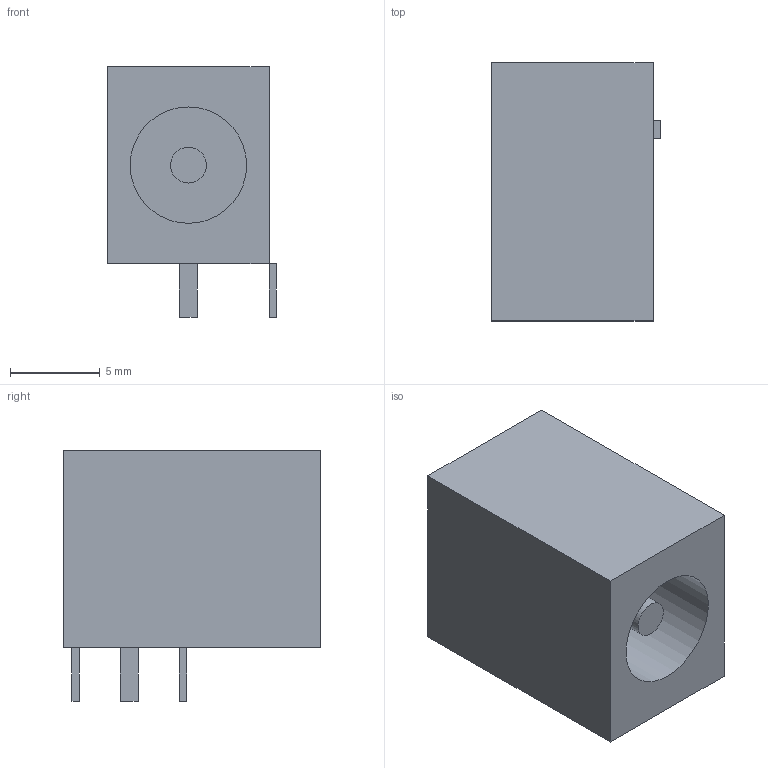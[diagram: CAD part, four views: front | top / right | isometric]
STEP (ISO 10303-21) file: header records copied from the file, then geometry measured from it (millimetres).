
FILE_DESCRIPTION(('Open CASCADE Model'),'2;1');
FILE_NAME('Open CASCADE Shape Model','2026-11-07T19:17:27',('Author'),( 'Open CASCADE'),'Open CASCADE STEP processor 7.9','Open CASCADE 7.9' ,'Unknown');
FILE_SCHEMA(('AUTOMOTIVE_DESIGN { 1 0 10303 214 1 1 1 1 }'));
Length unit declared in the file: millimetre
Products named in the file (6): 8ad4d546-db1a-11f1-a2cb-fb9cc656b430; PJ102AH_reference_housing; centre_contact; terminal_1; terminal_2; terminal_3
Assembly tree (5 placements, depth 2):
  8ad4d546-db1a-11f1-a2cb-fb9cc656b430
    PJ102AH_reference_housing
    centre_contact
    terminal_1
    terminal_2
    terminal_3
Bounding box: 9.4 x 14.4 x 14 mm (x, y, z)
Volume: 1139.7 mm3; surface area: 1053.4 mm2
Topology: 5 solids, 5 shells, 29 faces, 54 edges, 36 vertices
Faces by surface type: plane 27, cylinder 2
Full cylindrical faces by diameter (mm): 2 x1, 6.5 x1
Entity records: 1548 total; most frequent: DIRECTION 236, CARTESIAN_POINT 233, LINE 154, VECTOR 154, ORIENTED_EDGE 108, PCURVE 108, DEFINITIONAL_REPRESENTATION 108, EDGE_CURVE 54
